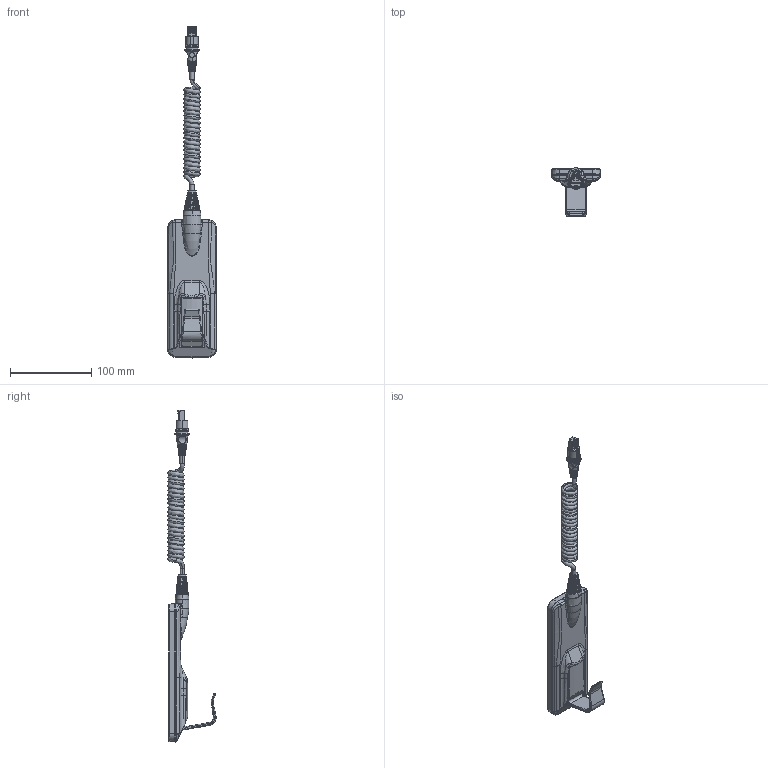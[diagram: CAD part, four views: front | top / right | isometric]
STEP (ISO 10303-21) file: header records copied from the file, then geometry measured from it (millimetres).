
FILE_DESCRIPTION((''),'2;1');
FILE_NAME('1050W4000_ASM','2021-08-18T15:45:12',('ti'),(''),'CREO PARAMETRIC BY PTC INC, 2020454','CREO PARAMETRIC BY PTC INC, 2020454','');
FILE_SCHEMA(('AUTOMOTIVE_DESIGN { 1 0 10303 214 1 1 1 1 }'));
Products named in the file (8): 1050W4000-1050W1001; 1050W4000-1050W1006; 1050W4000-914284; 1050W4000-1050W1010; 1050W4000-0207128; 0964592; SHELL-0273017; 1050W4000_ASM
Assembly tree (7 placements, depth 2):
  1050W4000_ASM
    1050W4000-1050W1001
    1050W4000-1050W1006
    1050W4000-914284
    1050W4000-1050W1010
    1050W4000-0207128
    0964592
    SHELL-0273017
Bounding box: 60 x 59.28 x 408.02 mm (x, y, z)
Volume: 202847.2 mm3; surface area: 98512.9 mm2
Topology: 7 solids, 7 shells, 1229 faces, 3090 edges, 1924 vertices
Faces by surface type: bspline 403, plane 352, cylinder 333, torus 63, cone 48, sphere 18, extrusion 12
Entity records: 75695 total; most frequent: CARTESIAN_POINT 44600, ORIENTED_EDGE 6176, DIRECTION 5052, EDGE_CURVE 3088, AXIS2_PLACEMENT_3D 1946, VERTEX_POINT 1924, EDGE_LOOP 1292, FACE_OUTER_BOUND 1229
